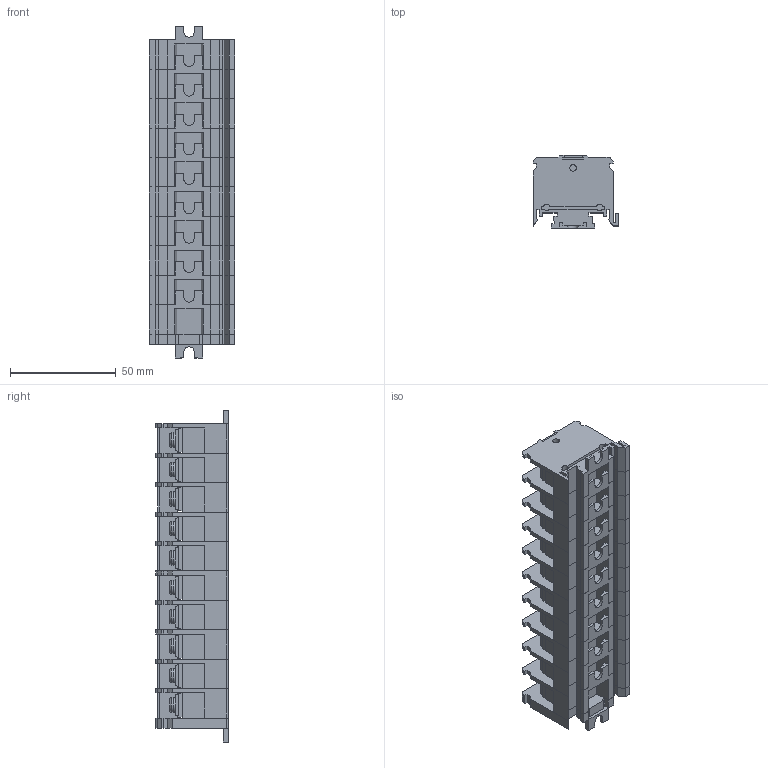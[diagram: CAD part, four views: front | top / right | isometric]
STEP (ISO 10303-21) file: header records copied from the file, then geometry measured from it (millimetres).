
FILE_DESCRIPTION (( 'STEP AP203' ), '1' );
FILE_NAME ('tk-040 孰屐祉 蝈痨桧嚯 TK-040 漕 6 祆2 40A.STEP', '2017-04-24T16:04:06', ( 'kuryshev' ), ( '' ), 'SwSTEP 2.0', 'SolidWorks 2010', '' );
FILE_SCHEMA (( 'CONFIG_CONTROL_DESIGN' ));
Length unit declared in the file: millimetre
Products named in the file (1): tk-040 孰屐祉 蝈痨桧嚯 TK-040 漕 6 祆2 40A
Bounding box: 40.55 x 34.3 x 156.8 mm (x, y, z)
Volume: 74321.2 mm3; surface area: 94778.1 mm2
Topology: 63 solids, 63 shells, 2204 faces, 5818 edges, 3852 vertices
Faces by surface type: plane 1866, cylinder 258, torus 80
Entity records: 68071 total; most frequent: CARTESIAN_POINT 13275, ORIENTED_EDGE 11636, DIRECTION 10684, EDGE_CURVE 5818, LINE 4802, VECTOR 4802, VERTEX_POINT 3852, AXIS2_PLACEMENT_3D 2941
